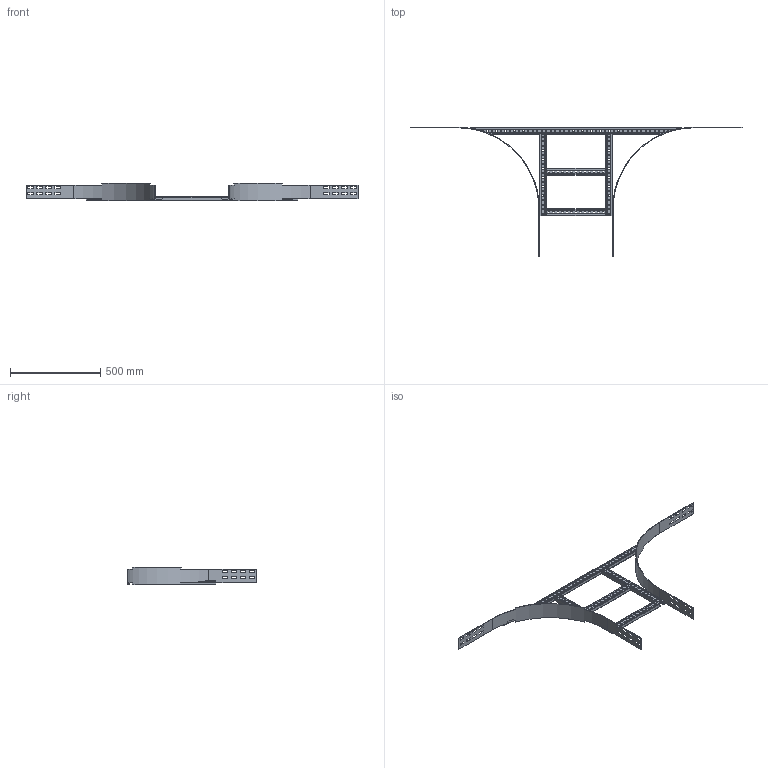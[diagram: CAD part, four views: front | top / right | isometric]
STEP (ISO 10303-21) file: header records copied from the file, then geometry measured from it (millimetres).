
FILE_DESCRIPTION(('Creo Elements/Direct Modeling STEP Export'),'2;1');
FILE_NAME('WPBP10-40-45.stp','2016-06-03T11:50:15',(''),(''),'PTC Creo Elements/Direct Modeling STEP processor for AP214 (Solid Model)','PTC Creo Elements/Direct Modeling 19.0C 15-Aug-2015 (C) Parametric Technology GmbH','');
FILE_SCHEMA(('AUTOMOTIVE_DESIGN { 1 0 10303 214 1 1 1 1 }'));
Length unit declared in the file: millimetre
Products named in the file (5): WPAASP1_40; WPAASP2; WPAAIG_100-450; WPKS40.1; WPBP10-40-45
Assembly tree (7 placements, depth 2):
  WPBP10-40-45
    WPKS40.1  x2
    WPAAIG_100-450  x2
    WPAASP2  x2
    WPAASP1_40
Bounding box: 1835 x 715 x 95 mm (x, y, z)
Volume: 955278.4 mm3; surface area: 931138.8 mm2
Topology: 7 solids, 7 shells, 797 faces, 2349 edges, 1566 vertices
Faces by surface type: plane 489, cylinder 308
Entity records: 17482 total; most frequent: ORIENTED_EDGE 3018, CARTESIAN_POINT 3004, DIRECTION 2929, EDGE_CURVE 1509, VECTOR 1067, LINE 1067, VERTEX_POINT 1006, AXIS2_PLACEMENT_3D 931
